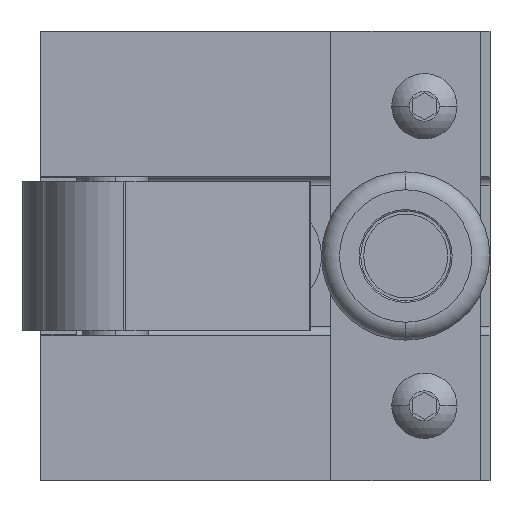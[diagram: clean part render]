
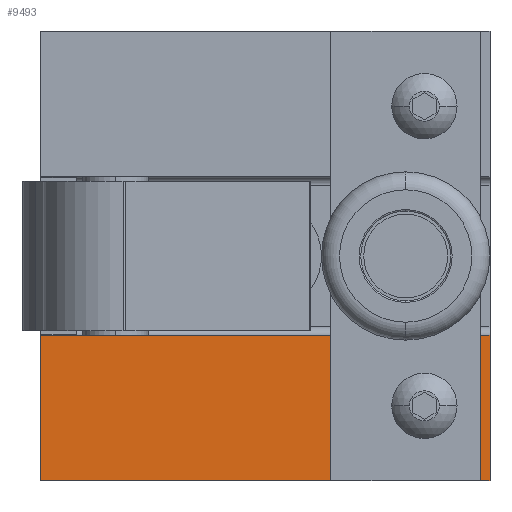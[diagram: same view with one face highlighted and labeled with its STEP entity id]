
A CAD part, left-side view. The second image highlights one B-rep face of the part: STEP entity #9493.
In plain terms, the highlighted planar face has unit normal (-1, 0, 0).
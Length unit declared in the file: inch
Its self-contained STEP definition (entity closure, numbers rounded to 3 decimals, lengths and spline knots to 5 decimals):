
#2894 = DIRECTION ( 'NONE',  ( 0., 0., 1. ) ) ;
#2895 = DIRECTION ( 'NONE',  ( -1., 0., 0. ) ) ;
#2896 = CARTESIAN_POINT ( 'NONE',  ( 5.66064, 3.20971, -2.5 ) ) ;
#2897 = AXIS2_PLACEMENT_3D ( 'NONE', #2896, #2895, #2894 ) ;
#2899 = CIRCLE ( 'NONE', #2897, 0.125 ) ;
#3031 = CARTESIAN_POINT ( 'NONE',  ( 5.66064, 3.20971, -2.625 ) ) ;
#3273 = CARTESIAN_POINT ( 'NONE',  ( 5.66064, 3.20971, -2.375 ) ) ;
#3442 = CARTESIAN_POINT ( 'NONE',  ( 5.66064, 5.77171, -2.03 ) ) ;
#3554 = LINE ( 'NONE', #3557, #3556 ) ;
#3555 = DIRECTION ( 'NONE',  ( 0., 0., 1. ) ) ;
#3556 = VECTOR ( 'NONE', #3555, 39.37008 ) ;
#3557 = CARTESIAN_POINT ( 'NONE',  ( 5.66064, 5.77171, -3. ) ) ;
#3699 = CARTESIAN_POINT ( 'NONE',  ( 5.66064, 5.77171, -3. ) ) ;
#9467 = VERTEX_POINT ( 'NONE', #14408 ) ;
#9468 = ORIENTED_EDGE ( 'NONE', *, *, #9470, .T. ) ;
#9470 = EDGE_CURVE ( 'NONE', #9467, #9790, #14407, .T. ) ;
#9493 = ADVANCED_FACE ( 'NONE', ( #14703, #14702 ), #14634, .T. ) ;
#9494 = EDGE_LOOP ( 'NONE', ( #9496, #9498 ) ) ;
#9496 = ORIENTED_EDGE ( 'NONE', *, *, #9497, .F. ) ;
#9497 = EDGE_CURVE ( 'NONE', #11214, #11193, #14650, .T. ) ;
#9498 = ORIENTED_EDGE ( 'NONE', *, *, #11140, .F. ) ;
#9499 = EDGE_LOOP ( 'NONE', ( #9500, #9812, #9813, #9468 ) ) ;
#9500 = ORIENTED_EDGE ( 'NONE', *, *, #9789, .F. ) ;
#9789 = EDGE_CURVE ( 'NONE', #11402, #9790, #15396, .T. ) ;
#9790 = VERTEX_POINT ( 'NONE', #15373 ) ;
#9812 = ORIENTED_EDGE ( 'NONE', *, *, #11502, .F. ) ;
#9813 = ORIENTED_EDGE ( 'NONE', *, *, #9957, .T. ) ;
#9957 = EDGE_CURVE ( 'NONE', #11579, #9467, #15839, .T. ) ;
#11140 = EDGE_CURVE ( 'NONE', #11193, #11214, #2899, .T. ) ;
#11193 = VERTEX_POINT ( 'NONE', #3031 ) ;
#11214 = VERTEX_POINT ( 'NONE', #3273 ) ;
#11402 = VERTEX_POINT ( 'NONE', #3442 ) ;
#11502 = EDGE_CURVE ( 'NONE', #11579, #11402, #3554, .T. ) ;
#11579 = VERTEX_POINT ( 'NONE', #3699 ) ;
#14404 = DIRECTION ( 'NONE',  ( 0., 0., 1. ) ) ;
#14405 = VECTOR ( 'NONE', #14404, 39.37008 ) ;
#14406 = CARTESIAN_POINT ( 'NONE',  ( 5.66064, 2.77171, -3. ) ) ;
#14407 = LINE ( 'NONE', #14406, #14405 ) ;
#14408 = CARTESIAN_POINT ( 'NONE',  ( 5.66064, 2.77171, -3. ) ) ;
#14630 = DIRECTION ( 'NONE',  ( 0., 0., 1. ) ) ;
#14631 = DIRECTION ( 'NONE',  ( -1., 0., 0. ) ) ;
#14634 = PLANE ( 'NONE',  #14653 ) ;
#14646 = DIRECTION ( 'NONE',  ( 0., 0., 1. ) ) ;
#14647 = DIRECTION ( 'NONE',  ( -1., 0., 0. ) ) ;
#14648 = CARTESIAN_POINT ( 'NONE',  ( 5.66064, 3.20971, -2.5 ) ) ;
#14649 = AXIS2_PLACEMENT_3D ( 'NONE', #14648, #14647, #14646 ) ;
#14650 = CIRCLE ( 'NONE', #14649, 0.125 ) ;
#14652 = CARTESIAN_POINT ( 'NONE',  ( 5.66064, 2.77171, -3. ) ) ;
#14653 = AXIS2_PLACEMENT_3D ( 'NONE', #14652, #14631, #14630 ) ;
#14702 = FACE_OUTER_BOUND ( 'NONE', #9499, .T. ) ;
#14703 = FACE_BOUND ( 'NONE', #9494, .T. ) ;
#15373 = CARTESIAN_POINT ( 'NONE',  ( 5.66064, 2.77171, -2.03 ) ) ;
#15374 = DIRECTION ( 'NONE',  ( 0., -1., 0. ) ) ;
#15375 = VECTOR ( 'NONE', #15374, 39.37008 ) ;
#15376 = CARTESIAN_POINT ( 'NONE',  ( 5.66064, 2.77171, -2.03 ) ) ;
#15396 = LINE ( 'NONE', #15376, #15375 ) ;
#15836 = DIRECTION ( 'NONE',  ( 0., -1., 0. ) ) ;
#15837 = VECTOR ( 'NONE', #15836, 39.37008 ) ;
#15838 = CARTESIAN_POINT ( 'NONE',  ( 5.66064, 2.77171, -3. ) ) ;
#15839 = LINE ( 'NONE', #15838, #15837 ) ;
